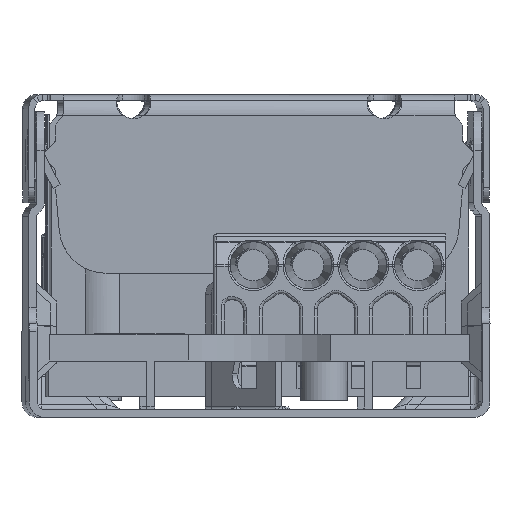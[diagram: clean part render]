
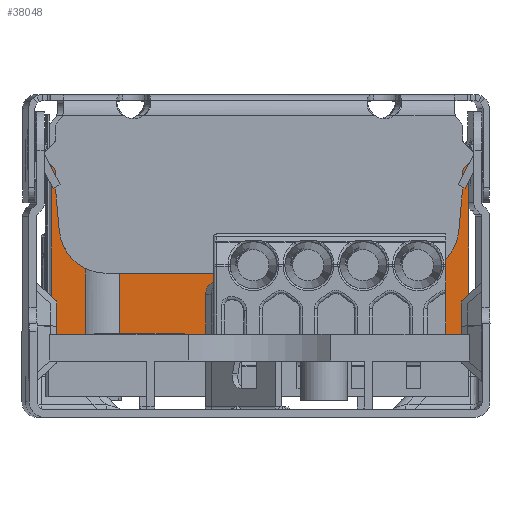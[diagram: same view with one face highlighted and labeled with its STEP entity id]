
A CAD part, left-side view. The second image highlights one B-rep face of the part: STEP entity #38048.
In plain terms, the highlighted planar face has unit normal (-1, -0.001, 0).
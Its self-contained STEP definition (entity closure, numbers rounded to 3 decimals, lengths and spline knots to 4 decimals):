
#1808=LINE($,#60119,#4620);
#1813=LINE($,#60129,#4625);
#1814=LINE($,#60137,#4626);
#1905=LINE($,#60393,#4717);
#1951=LINE($,#60524,#4763);
#1998=LINE($,#60664,#4810);
#2935=LINE($,#68230,#5747);
#2936=LINE($,#68233,#5748);
#2937=LINE($,#68235,#5749);
#2952=LINE($,#68334,#5764);
#2957=LINE($,#68345,#5769);
#2958=LINE($,#68346,#5770);
#4620=VECTOR($,#47654,0.08);
#4625=VECTOR($,#47663,0.6986);
#4626=VECTOR($,#47670,0.2166);
#4717=VECTOR($,#47835,1.4118);
#4763=VECTOR($,#47925,0.08);
#4810=VECTOR($,#48036,1.196);
#5747=VECTOR($,#51837,0.219);
#5748=VECTOR($,#51842,1.05);
#5749=VECTOR($,#51845,1.05);
#5764=VECTOR($,#51984,0.12);
#5769=VECTOR($,#51995,2.666);
#5770=VECTOR($,#51996,1.196);
#9811=FACE_OUTER_BOUND($,#12585,.T.);
#12585=EDGE_LOOP($,(#30648,#30649,#30650,#30651,#30652,#30653,#30654,#30655,
#30656,#30657,#30658,#30659));
#15978=VERTEX_POINT($,#60116);
#15979=VERTEX_POINT($,#60118);
#15982=VERTEX_POINT($,#60128);
#15985=VERTEX_POINT($,#60134);
#15986=VERTEX_POINT($,#60136);
#16113=VERTEX_POINT($,#60390);
#16114=VERTEX_POINT($,#60392);
#16177=VERTEX_POINT($,#60523);
#16238=VERTEX_POINT($,#60662);
#17302=VERTEX_POINT($,#68228);
#17303=VERTEX_POINT($,#68229);
#17328=VERTEX_POINT($,#68344);
#19736=EDGE_CURVE($,#15978,#15979,#1808,.T.);
#19741=EDGE_CURVE($,#15979,#15982,#1813,.T.);
#19745=EDGE_CURVE($,#15985,#15986,#1814,.T.);
#19873=EDGE_CURVE($,#16113,#16114,#1905,.T.);
#19939=EDGE_CURVE($,#16114,#16177,#1951,.T.);
#20010=EDGE_CURVE($,#16113,#16238,#1998,.T.);
#21821=EDGE_CURVE($,#17302,#17303,#2935,.T.);
#21823=EDGE_CURVE($,#17303,#15985,#2936,.T.);
#21825=EDGE_CURVE($,#15982,#17302,#2937,.T.);
#21858=EDGE_CURVE($,#16177,#15978,#2952,.T.);
#21863=EDGE_CURVE($,#16238,#17328,#2957,.T.);
#21864=EDGE_CURVE($,#15986,#17328,#2958,.T.);
#30648=ORIENTED_EDGE($,*,*,#21863,.T.);
#30649=ORIENTED_EDGE($,*,*,#21864,.F.);
#30650=ORIENTED_EDGE($,*,*,#19745,.F.);
#30651=ORIENTED_EDGE($,*,*,#21823,.F.);
#30652=ORIENTED_EDGE($,*,*,#21821,.F.);
#30653=ORIENTED_EDGE($,*,*,#21825,.F.);
#30654=ORIENTED_EDGE($,*,*,#19741,.F.);
#30655=ORIENTED_EDGE($,*,*,#19736,.F.);
#30656=ORIENTED_EDGE($,*,*,#21858,.F.);
#30657=ORIENTED_EDGE($,*,*,#19939,.F.);
#30658=ORIENTED_EDGE($,*,*,#19873,.F.);
#30659=ORIENTED_EDGE($,*,*,#20010,.T.);
#33454=PLANE($,#42132);
#38048=ADVANCED_FACE($,(#9811),#33454,.T.);
#42132=AXIS2_PLACEMENT_3D($,#68343,#51993,#51994);
#47654=DIRECTION($,(0.,0.,-1.));
#47663=DIRECTION($,(-0.001,1.,0.));
#47670=DIRECTION($,(-0.001,1.,0.));
#47835=DIRECTION($,(-0.001,1.,0.));
#47925=DIRECTION($,(0.,0.,1.));
#48036=DIRECTION($,(0.,0.,1.));
#51837=DIRECTION($,(-0.001,1.,0.));
#51842=DIRECTION($,(0.,0.,-1.));
#51845=DIRECTION($,(0.,0.,1.));
#51984=DIRECTION($,(-0.001,1.,0.));
#51993=DIRECTION('center_axis',(-1.,-0.001,
0.));
#51994=DIRECTION('ref_axis',(0.001,-1.,0.));
#51995=DIRECTION($,(-0.001,1.,0.));
#51996=DIRECTION($,(0.,0.,1.));
#60116=CARTESIAN_POINT('',(-15.0979,12.9575,-6.5299));
#60118=CARTESIAN_POINT('',(-15.0979,12.9575,-6.6099));
#60119=CARTESIAN_POINT($,(-15.0979,12.9575,-6.6099));
#60128=CARTESIAN_POINT('',(-15.0988,13.6561,-6.6099));
#60129=CARTESIAN_POINT($,(-15.0985,13.4269,-6.6099));
#60134=CARTESIAN_POINT('',(-15.099,13.8751,-6.6099));
#60136=CARTESIAN_POINT('',(-15.0993,14.0917,-6.6099));
#60137=CARTESIAN_POINT($,(-15.0985,13.4269,-6.6099));
#60390=CARTESIAN_POINT('',(-15.0959,11.4257,-6.6099));
#60392=CARTESIAN_POINT('',(-15.0977,12.8375,-6.6099));
#60393=CARTESIAN_POINT($,(-15.0985,13.4269,-6.6099));
#60523=CARTESIAN_POINT('',(-15.0977,12.8375,-6.5299));
#60524=CARTESIAN_POINT($,(-15.0977,12.8375,-6.6099));
#60662=CARTESIAN_POINT('',(-15.0959,11.4257,-5.4139));
#60664=CARTESIAN_POINT($,(-15.0959,11.4257,-6.6099));
#68228=CARTESIAN_POINT('',(-15.0988,13.6561,-5.5599));
#68229=CARTESIAN_POINT('',(-15.099,13.8751,-5.5599));
#68230=CARTESIAN_POINT($,(-15.0991,13.9287,-5.5599));
#68233=CARTESIAN_POINT($,(-15.099,13.8751,-6.6099));
#68235=CARTESIAN_POINT($,(-15.0988,13.6561,-6.6099));
#68334=CARTESIAN_POINT($,(-15.0986,13.4946,-6.5299));
#68343=CARTESIAN_POINT('Origin',(-15.0993,14.0917,-6.6099));
#68344=CARTESIAN_POINT('',(-15.0993,14.0917,-5.4139));
#68345=CARTESIAN_POINT($,(-15.0985,13.4252,-5.4139));
#68346=CARTESIAN_POINT($,(-15.0993,14.0917,-6.6099));
